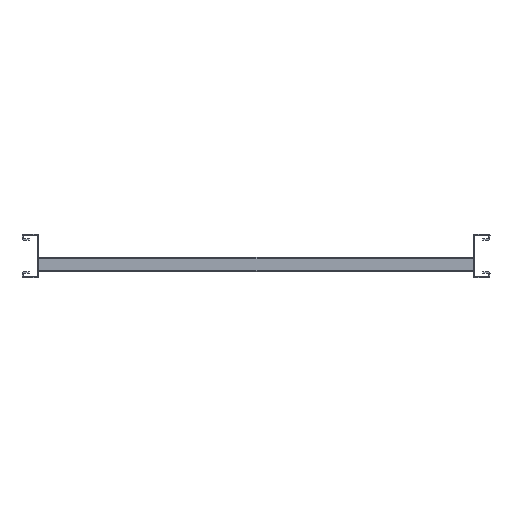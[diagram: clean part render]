
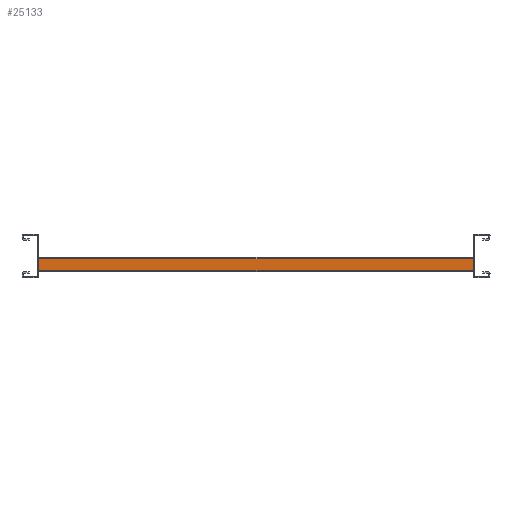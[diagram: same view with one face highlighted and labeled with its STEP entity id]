
A CAD part, left-side view. The second image highlights one B-rep face of the part: STEP entity #25133.
In plain terms, the highlighted planar face has unit normal (-1, 0, 0) as drawn and (0, 1, 0) by its records, which use the part's own axes.
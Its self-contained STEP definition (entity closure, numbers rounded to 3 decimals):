
#1799=FACE_OUTER_BOUND('',#3497,.T.);
#3497=EDGE_LOOP('',(#22530,#22531,#22532,#22533));
#6807=LINE('',#38584,#10087);
#6813=LINE('',#38601,#10093);
#6954=LINE('',#39126,#10234);
#6955=LINE('',#39128,#10235);
#10087=VECTOR('',#31726,304.8);
#10093=VECTOR('',#31738,304.8);
#10234=VECTOR('',#32147,304.8);
#10235=VECTOR('',#32150,304.8);
#12402=VERTEX_POINT('',#38581);
#12403=VERTEX_POINT('',#38583);
#12410=VERTEX_POINT('',#38598);
#12411=VERTEX_POINT('',#38600);
#15722=EDGE_CURVE('',#12402,#12403,#6807,.T.);
#15730=EDGE_CURVE('',#12410,#12411,#6813,.T.);
#15994=EDGE_CURVE('',#12411,#12402,#6954,.T.);
#15995=EDGE_CURVE('',#12410,#12403,#6955,.T.);
#22530=ORIENTED_EDGE('',*,*,#15722,.F.);
#22531=ORIENTED_EDGE('',*,*,#15994,.F.);
#22532=ORIENTED_EDGE('',*,*,#15730,.F.);
#22533=ORIENTED_EDGE('',*,*,#15995,.T.);
#24036=PLANE('',#26474);
#25133=ADVANCED_FACE('',(#1799),#24036,.T.);
#26474=AXIS2_PLACEMENT_3D('',#39127,#32148,#32149);
#31726=DIRECTION('',(0.,0.,-1.));
#31738=DIRECTION('',(0.,0.,1.));
#32147=DIRECTION('',(-1.,0.,0.));
#32148=DIRECTION('center_axis',(0.,1.,0.));
#32149=DIRECTION('ref_axis',(1.,0.,0.));
#32150=DIRECTION('',(-1.,0.,0.));
#38581=CARTESIAN_POINT('',(0.,20.,8.5));
#38583=CARTESIAN_POINT('',(0.,20.,-8.5));
#38584=CARTESIAN_POINT('',(0.,20.,8.5));
#38598=CARTESIAN_POINT('',(600.,20.,-8.5));
#38600=CARTESIAN_POINT('',(600.,20.,8.5));
#38601=CARTESIAN_POINT('',(600.,20.,-8.5));
#39126=CARTESIAN_POINT('',(0.,20.,8.5));
#39127=CARTESIAN_POINT('Origin',(0.,20.,8.5));
#39128=CARTESIAN_POINT('',(0.,20.,-8.5));
